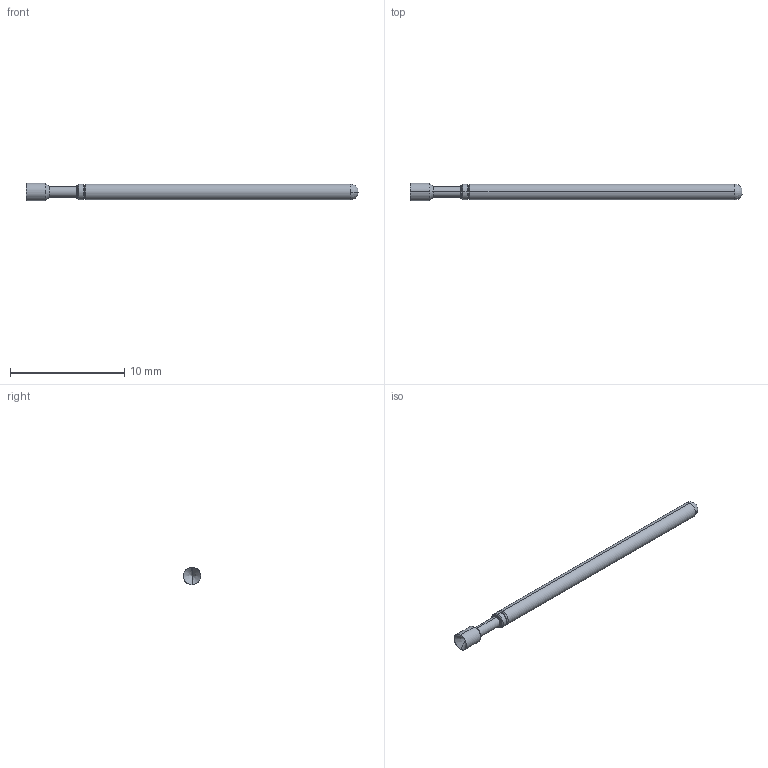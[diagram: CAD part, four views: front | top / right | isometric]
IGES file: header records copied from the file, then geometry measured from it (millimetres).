
Start section: SolidWorks IGES file using analytic representation for surfaces
Global section: file name: Z:\probe solid model mockups\Solidworks models\LTP-25\LTP-25A RECD.IGS; native system: SolidWorks 2006 by SolidWorks Corporation; preprocessor: SolidWorks 2006 by SolidWorks Corporation; author: tsakatani; date: 071214.143009; units: inch
Bounding box: 29.08 x 1.52 x 1.52 mm (x, y, z)
Surface area: 126.6 mm2 (no closed solid volume)
Topology: 0 solids, 0 shells, 24 faces, 140 edges, 138 vertices
Faces by surface type: revolution 18, bspline 6
